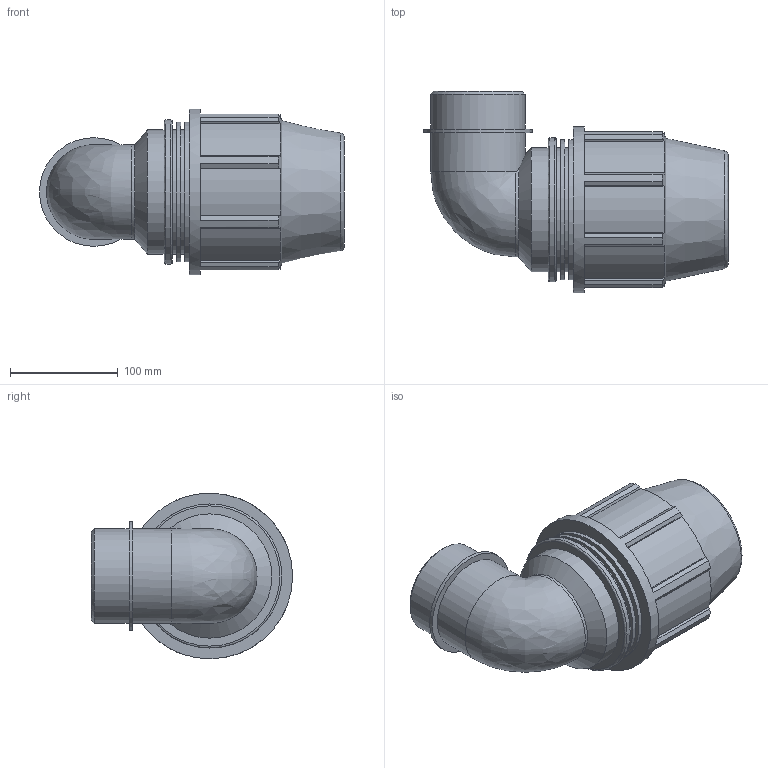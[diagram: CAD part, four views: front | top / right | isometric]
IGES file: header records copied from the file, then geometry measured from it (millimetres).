
Global section: file name: 0785060900300A.ipt; native system: Autodesk Inventor 2015; preprocessor: unknown; author: KIM; date: 20180325.201246; units: millimetre
Bounding box: 283.53 x 187 x 154 mm (x, y, z)
Volume: 1934610.7 mm3; surface area: 239454.5 mm2
Topology: 1 solids, 1 shells, 85 faces, 225 edges, 150 vertices
Faces by surface type: plane 52, cylinder 19, revolution 9, cone 4, bspline 1
Full cylindrical faces by diameter (mm): 87.884 x2, 101.067 x1, 115.5 x3, 129.961 x2, 133.98 x1, 154 x1
